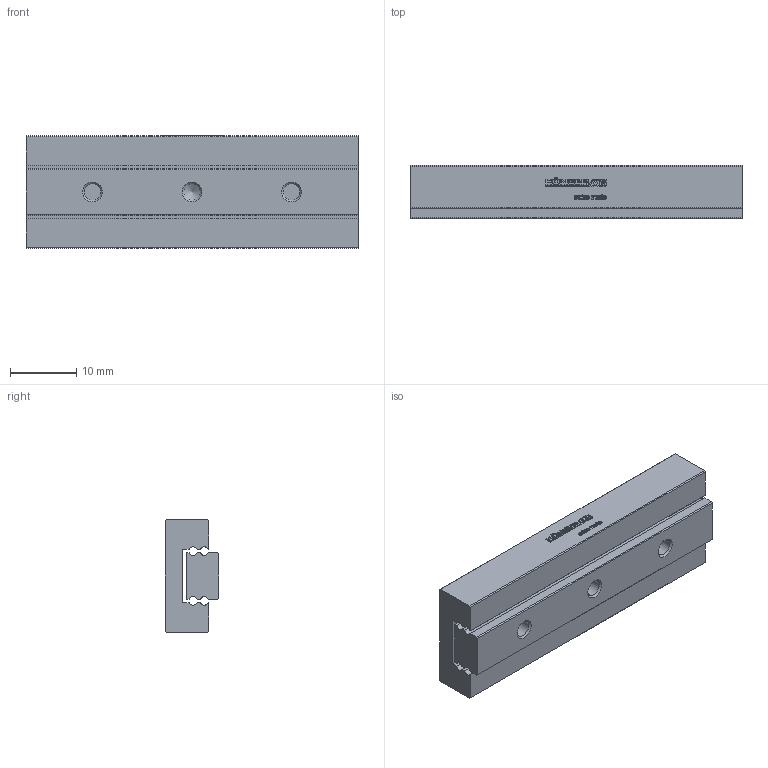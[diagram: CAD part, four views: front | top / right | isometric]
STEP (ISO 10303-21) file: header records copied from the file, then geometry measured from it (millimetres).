
FILE_DESCRIPTION(/* description */ ('STEP AP214'),/* implementation_level */ '2;1');
FILE_NAME(/* name */ 'MSK 7-50.40(0)',/* time_stamp */ '2025-04-16T16:57:55+02:00',/* author */ ('License CC BY-ND 4.0'),/* organization */ ('CADENAS'),/* preprocessor_version */ 'ST-DEVELOPER v19.3',/* originating_system */ 'PARTsolutions',/* authorisation */ ' ');
FILE_SCHEMA (('AUTOMOTIVE_DESIGN {1 0 10303 214 3 1 1}'));
Length unit declared in the file: millimetre
Products named in the file (3): MSK 7-50.40(0); MSK 7-50.40_1; MSK 7-50.40_2
Assembly tree (2 placements, depth 2):
  MSK 7-50.40(0)
    MSK 7-50.40_1
    MSK 7-50.40_2
Bounding box: 50 x 8 x 17 mm (x, y, z)
Volume: 5309.4 mm3; surface area: 4565 mm2
Topology: 2 solids, 2 shells, 538 faces, 1479 edges, 982 vertices
Faces by surface type: cylinder 313, plane 213, cone 12
Full cylindrical faces by diameter (mm): 1.567 x8, 2.459 x3, 4.5 x2
Entity records: 17297 total; most frequent: DIRECTION 3172, CARTESIAN_POINT 2976, ORIENTED_EDGE 2906, EDGE_CURVE 1453, AXIS2_PLACEMENT_3D 1178, VERTEX_POINT 982, LINE 816, VECTOR 816
